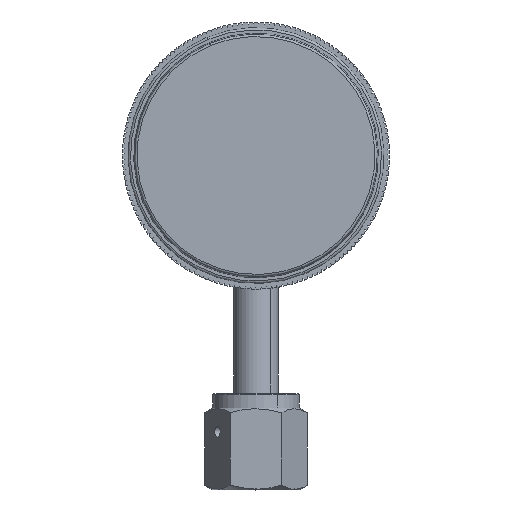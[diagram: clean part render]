
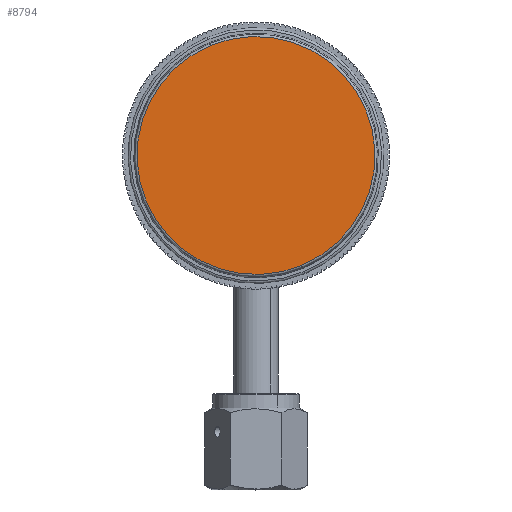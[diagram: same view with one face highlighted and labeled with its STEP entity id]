
A CAD part, top view. The second image highlights one B-rep face of the part: STEP entity #8794.
In plain terms, the highlighted planar face has unit normal (0, 0, 1).
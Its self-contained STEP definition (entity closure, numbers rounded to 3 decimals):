
#608 = CIRCLE ( 'NONE', #16059, 25.486 ) ;
#637 = DIRECTION ( 'NONE',  ( 0., 0., -1. ) ) ;
#1416 = EDGE_CURVE ( 'NONE', #5541, #4470, #608, .T. ) ;
#3562 = DIRECTION ( 'NONE',  ( 0., 0., -1. ) ) ;
#4318 = PLANE ( 'NONE',  #5736 ) ;
#4470 = VERTEX_POINT ( 'NONE', #17281 ) ;
#5541 = VERTEX_POINT ( 'NONE', #9306 ) ;
#5736 = AXIS2_PLACEMENT_3D ( 'NONE', #19199, #10234, #13370 ) ;
#6200 = CIRCLE ( 'NONE', #14231, 25.486 ) ;
#7029 = EDGE_LOOP ( 'NONE', ( #9454, #14187 ) ) ;
#8794 = ADVANCED_FACE ( 'NONE', ( #18078 ), #4318, .T. ) ;
#9306 = CARTESIAN_POINT ( 'NONE',  ( -19.708, 22.185, 28. ) ) ;
#9454 = ORIENTED_EDGE ( 'NONE', *, *, #13290, .F. ) ;
#10234 = DIRECTION ( 'NONE',  ( 0., 0., 1. ) ) ;
#11193 = CARTESIAN_POINT ( 'NONE',  ( -9.945, -1.357, 28. ) ) ;
#11411 = CARTESIAN_POINT ( 'NONE',  ( -9.945, -1.357, 28. ) ) ;
#13023 = DIRECTION ( 'NONE',  ( 0.383, -0.924, 0. ) ) ;
#13290 = EDGE_CURVE ( 'NONE', #4470, #5541, #6200, .T. ) ;
#13370 = DIRECTION ( 'NONE',  ( -0.383, 0.924, 0. ) ) ;
#14187 = ORIENTED_EDGE ( 'NONE', *, *, #1416, .F. ) ;
#14231 = AXIS2_PLACEMENT_3D ( 'NONE', #11193, #3562, #13023 ) ;
#14444 = DIRECTION ( 'NONE',  ( 0.383, -0.924, 0. ) ) ;
#16059 = AXIS2_PLACEMENT_3D ( 'NONE', #11411, #637, #14444 ) ;
#17281 = CARTESIAN_POINT ( 'NONE',  ( -0.183, -24.899, 28. ) ) ;
#18078 = FACE_OUTER_BOUND ( 'NONE', #7029, .T. ) ;
#19199 = CARTESIAN_POINT ( 'NONE',  ( -0.183, -24.899, 28. ) ) ;
